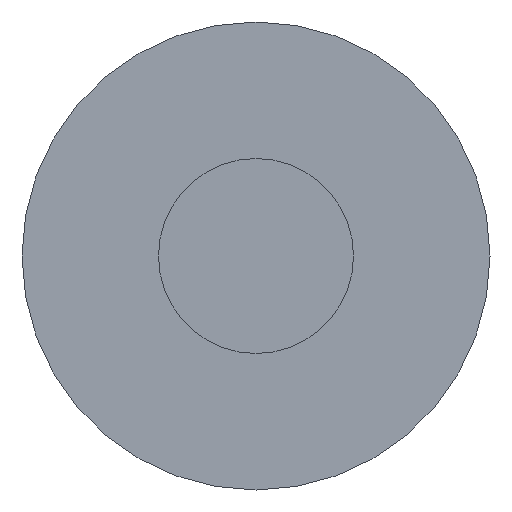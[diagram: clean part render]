
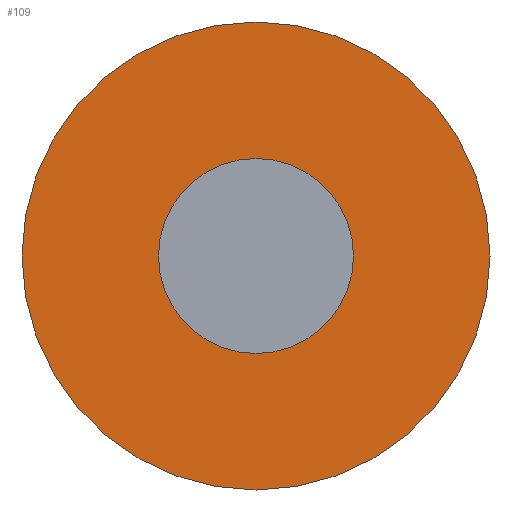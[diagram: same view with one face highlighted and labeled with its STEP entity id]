
A CAD part, front view. The second image highlights one B-rep face of the part: STEP entity #109.
In plain terms, the highlighted planar face has unit normal (0, -1, 0).
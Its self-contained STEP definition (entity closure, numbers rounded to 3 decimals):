
#31 = CYLINDRICAL_SURFACE('',#32,6.);
#32 = AXIS2_PLACEMENT_3D('',#33,#34,#35);
#33 = CARTESIAN_POINT('',(75.57,35.,-57.569));
#34 = DIRECTION('',(0.,1.,0.));
#35 = DIRECTION('',(0.,-0.,1.));
#56 = VERTEX_POINT('',#57);
#57 = CARTESIAN_POINT('',(75.57,35.,-51.569));
#78 = EDGE_CURVE('',#56,#56,#79,.T.);
#79 = SURFACE_CURVE('',#80,(#85,#92),.PCURVE_S1.);
#80 = CIRCLE('',#81,6.);
#81 = AXIS2_PLACEMENT_3D('',#82,#83,#84);
#82 = CARTESIAN_POINT('',(75.57,35.,-57.569));
#83 = DIRECTION('',(0.,1.,0.));
#84 = DIRECTION('',(0.,-0.,1.));
#85 = PCURVE('',#31,#86);
#86 = DEFINITIONAL_REPRESENTATION('',(#87),#91);
#87 = LINE('',#88,#89);
#88 = CARTESIAN_POINT('',(0.,0.));
#89 = VECTOR('',#90,1.);
#90 = DIRECTION('',(1.,0.));
#91 = ( GEOMETRIC_REPRESENTATION_CONTEXT(2) 
PARAMETRIC_REPRESENTATION_CONTEXT() REPRESENTATION_CONTEXT('2D SPACE',''
  ) );
#92 = PCURVE('',#93,#98);
#93 = PLANE('',#94);
#94 = AXIS2_PLACEMENT_3D('',#95,#96,#97);
#95 = CARTESIAN_POINT('',(75.57,35.,-57.569));
#96 = DIRECTION('',(0.,1.,0.));
#97 = DIRECTION('',(0.,-0.,1.));
#98 = DEFINITIONAL_REPRESENTATION('',(#99),#103);
#99 = CIRCLE('',#100,6.);
#100 = AXIS2_PLACEMENT_2D('',#101,#102);
#101 = CARTESIAN_POINT('',(0.,0.));
#102 = DIRECTION('',(1.,0.));
#103 = ( GEOMETRIC_REPRESENTATION_CONTEXT(2) 
PARAMETRIC_REPRESENTATION_CONTEXT() REPRESENTATION_CONTEXT('2D SPACE',''
  ) );
#109 = ADVANCED_FACE('',(#110,#113),#93,.F.);
#110 = FACE_BOUND('',#111,.F.);
#111 = EDGE_LOOP('',(#112));
#112 = ORIENTED_EDGE('',*,*,#78,.T.);
#113 = FACE_BOUND('',#114,.F.);
#114 = EDGE_LOOP('',(#115));
#115 = ORIENTED_EDGE('',*,*,#116,.F.);
#116 = EDGE_CURVE('',#117,#117,#119,.T.);
#117 = VERTEX_POINT('',#118);
#118 = CARTESIAN_POINT('',(75.57,35.,-55.069));
#119 = SURFACE_CURVE('',#120,(#125,#132),.PCURVE_S1.);
#120 = CIRCLE('',#121,2.5);
#121 = AXIS2_PLACEMENT_3D('',#122,#123,#124);
#122 = CARTESIAN_POINT('',(75.57,35.,-57.569));
#123 = DIRECTION('',(0.,1.,0.));
#124 = DIRECTION('',(0.,-0.,1.));
#125 = PCURVE('',#93,#126);
#126 = DEFINITIONAL_REPRESENTATION('',(#127),#131);
#127 = CIRCLE('',#128,2.5);
#128 = AXIS2_PLACEMENT_2D('',#129,#130);
#129 = CARTESIAN_POINT('',(0.,0.));
#130 = DIRECTION('',(1.,0.));
#131 = ( GEOMETRIC_REPRESENTATION_CONTEXT(2) 
PARAMETRIC_REPRESENTATION_CONTEXT() REPRESENTATION_CONTEXT('2D SPACE',''
  ) );
#132 = PCURVE('',#133,#138);
#133 = CYLINDRICAL_SURFACE('',#134,2.5);
#134 = AXIS2_PLACEMENT_3D('',#135,#136,#137);
#135 = CARTESIAN_POINT('',(75.57,34.,-57.569));
#136 = DIRECTION('',(0.,1.,0.));
#137 = DIRECTION('',(0.,-0.,1.));
#138 = DEFINITIONAL_REPRESENTATION('',(#139),#143);
#139 = LINE('',#140,#141);
#140 = CARTESIAN_POINT('',(0.,1.));
#141 = VECTOR('',#142,1.);
#142 = DIRECTION('',(1.,0.));
#143 = ( GEOMETRIC_REPRESENTATION_CONTEXT(2) 
PARAMETRIC_REPRESENTATION_CONTEXT() REPRESENTATION_CONTEXT('2D SPACE',''
  ) );
